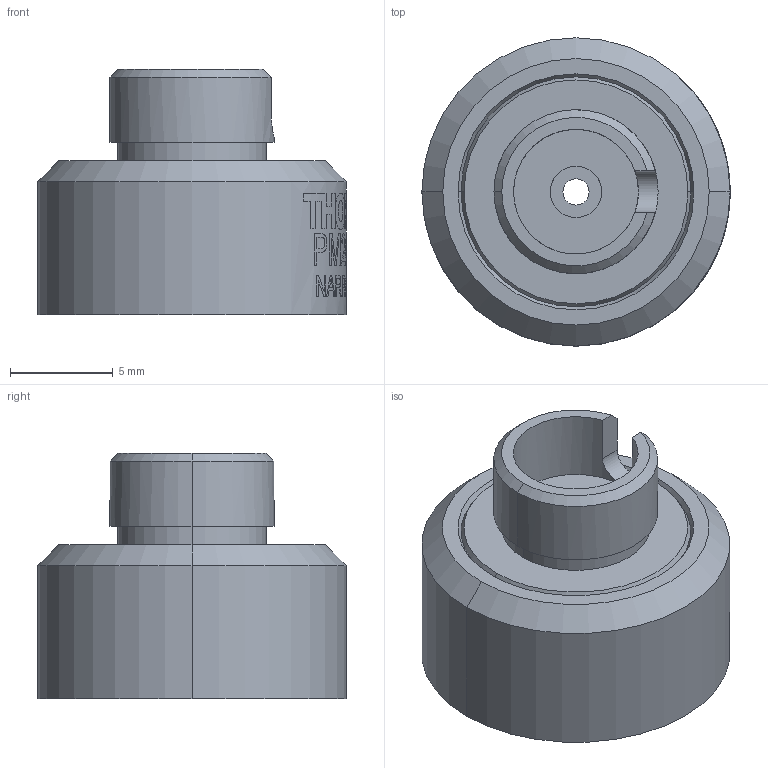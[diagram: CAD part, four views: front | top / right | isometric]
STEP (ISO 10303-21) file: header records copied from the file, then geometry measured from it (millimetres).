
FILE_DESCRIPTION (( 'STEP AP214' ), '1' );
FILE_NAME ('TTN218108-E0W.STEP', '2020-09-23T13:14:00', ( '' ), ( '' ), 'SwSTEP 2.0', 'SolidWorks 2018', '' );
FILE_SCHEMA (( 'AUTOMOTIVE_DESIGN' ));
Length unit declared in the file: inch
Products named in the file (1): TTN218108-E0W
Bounding box: 14.99 x 14.99 x 11.94 mm (x, y, z)
Volume: 735.8 mm3; surface area: 1098.3 mm2
Topology: 1 solids, 1 shells, 84 faces, 457 edges, 415 vertices
Faces by surface type: cylinder 61, cone 12, plane 11
Entity records: 7930 total; most frequent: CARTESIAN_POINT 3224, ORIENTED_EDGE 914, DIRECTION 570, EDGE_CURVE 457, VERTEX_POINT 415, AXIS2_PLACEMENT_3D 233, B_SPLINE_CURVE_WITH_KNOTS 205, CIRCLE 148
